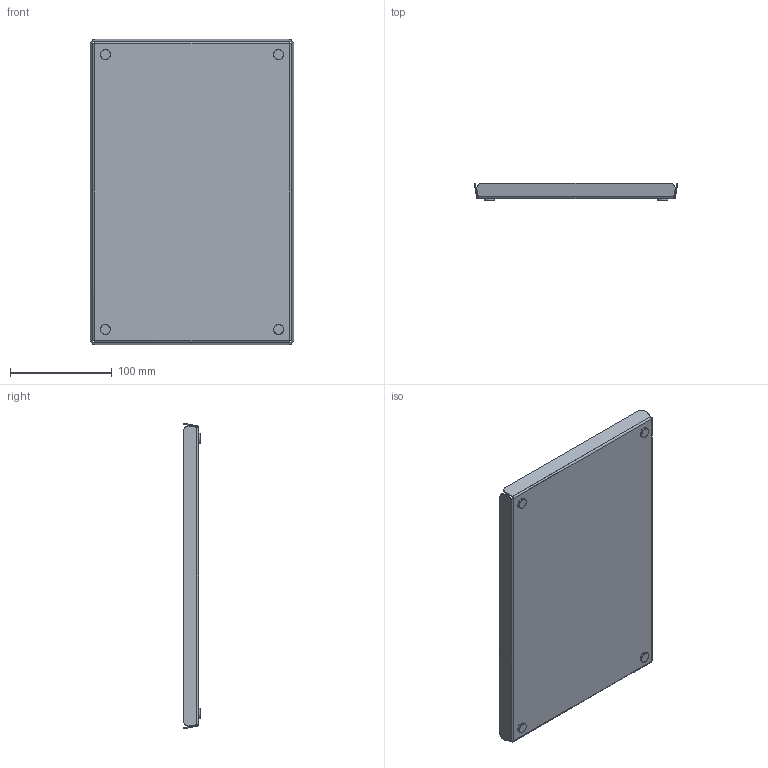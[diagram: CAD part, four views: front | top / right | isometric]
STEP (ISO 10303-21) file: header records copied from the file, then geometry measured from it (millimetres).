
FILE_DESCRIPTION(/* description */ (''),/* implementation_level */ '2;1');
FILE_NAME(/* name */ 'D:\DABSTORY\Folder dabstory pulpit - 16.03.2020\1. Oferta łazienkowa\Prototypy\Tacki\2. Tacka LARS LARGE\MODEL 3D\Tacka LARS LARGE.stp',/* time_stamp */ '2021-02-05T12:58:35+01:00',/* author */ ('Verical'),/* organization */ (''),/* preprocessor_version */ 'ST-DEVELOPER v17',/* originating_system */ 'Autodesk Inventor 2018',/* authorisation */ '');
FILE_SCHEMA (('AUTOMOTIVE_DESIGN { 1 0 10303 214 3 1 1 }'));
Length unit declared in the file: millimetre
Products named in the file (1): Tacka LARS LARGE
Bounding box: 200.21 x 16.95 x 300.21 mm (x, y, z)
Volume: 71509.8 mm3; surface area: 143134.4 mm2
Topology: 1 solids, 1 shells, 62 faces, 152 edges, 96 vertices
Faces by surface type: plane 26, cylinder 20, torus 8, bspline 8
Full cylindrical faces by diameter (mm): 10 x4
Entity records: 2055 total; most frequent: CARTESIAN_POINT 559, ORIENTED_EDGE 304, DIRECTION 302, EDGE_CURVE 152, AXIS2_PLACEMENT_3D 111, VERTEX_POINT 96, LINE 80, VECTOR 80
